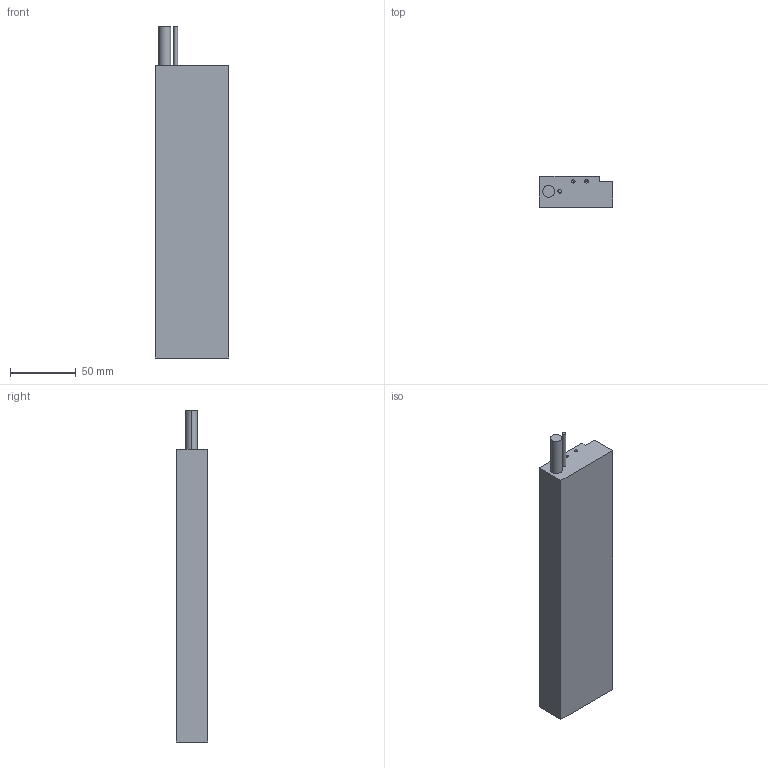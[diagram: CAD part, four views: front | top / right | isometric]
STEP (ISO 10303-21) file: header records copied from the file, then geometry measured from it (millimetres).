
FILE_DESCRIPTION (( 'STEP AP203' ), '1' );
FILE_NAME ('LMSA12.STEP', '2016-05-13T05:24:53', ( '' ), ( '' ), 'SwSTEP 2.0', 'SolidWorks 2015', '' );
FILE_SCHEMA (( 'CONFIG_CONTROL_DESIGN' ));
Length unit declared in the file: millimetre
Products named in the file (1): LMSA12
Bounding box: 56 x 23.7 x 253 mm (x, y, z)
Volume: 287929.2 mm3; surface area: 39821.2 mm2
Topology: 1 solids, 1 shells, 72 faces, 176 edges, 94 vertices
Faces by surface type: cylinder 32, cone 28, plane 12
Entity records: 1981 total; most frequent: DIRECTION 358, CARTESIAN_POINT 315, ORIENTED_EDGE 296, EDGE_CURVE 148, AXIS2_PLACEMENT_3D 137, VERTEX_POINT 94, EDGE_LOOP 88, LINE 84
